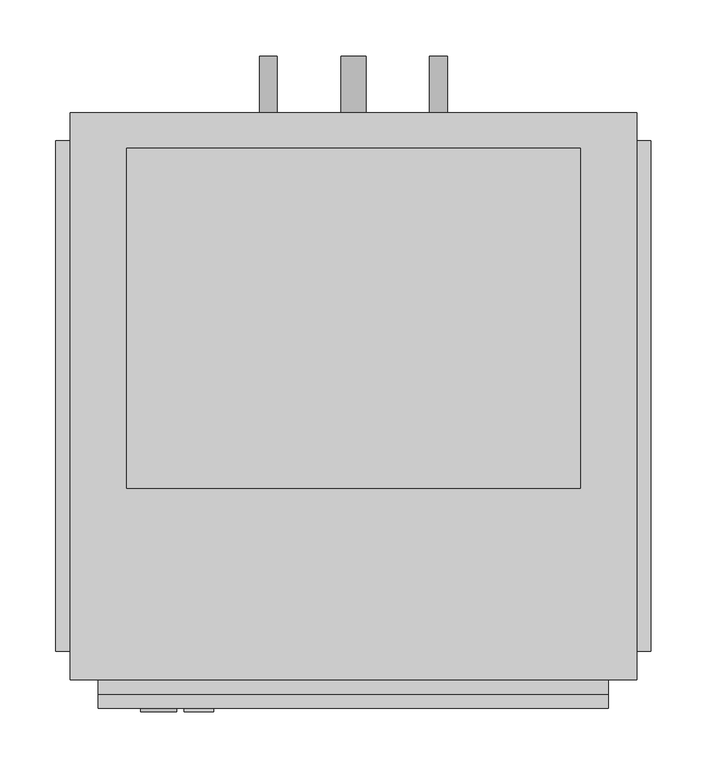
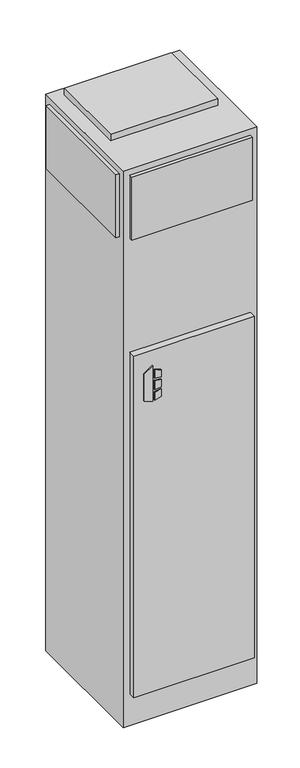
"""IFC4 building model written with IfcOpenShell, lengths in millimetres: proxy geometry, Concealed_Modular_Fan_Coil_Unit_-_MPY_-_IEC_-_2-Pipe_Cool-EHeat_-_NoRisers_2022 : Size 06 - 277v/60Hz/1Ph - 4 Row 6.0kW."""

from ifc_helpers import new_model, si_unit, point, frame, frame_2d, origin, origin_with_axes, place, context, project, spatial, polyline, circle_curve, trimmed, segment, composite_curve, outline, extrude, source, transform, mapped, element, save


def mechanical_equipment_d8c96383(model_context):
    return source(origin(), model_context, "Body", "SweptSolid", [
        extrude(outline(polyline([(1305.3480703, 215.9), (1295.4, 248.0733866), (1437.5709244, 248.0733866), (1414.5489183, 215.9), (1305.3480703, 215.9)])), frame((0.0, -292.1, 0.0), z_axis=(0.0, 1.0, 0.0), x_axis=(0.0, 0.0, 1.0)), (0.0, 0.0, 1.0), 3.175),
        extrude(outline(polyline([(1384.3473557, 254.8317195), (1381.1449632, 280.9131138), (1410.3738042, 280.9131138), (1418.4382193, 254.8317195), (1384.3473557, 254.8317195)])), frame((0.0, -292.1, 0.0), z_axis=(0.0, 1.0, 0.0), x_axis=(0.0, 0.0, 1.0)), (0.0, 0.0, 1.0), 3.175),
        extrude(outline(polyline([(1332.4838288, 280.9131138), (1328.8183279, 254.8317195), (1295.4, 254.8317195), (1304.0342372, 280.9131138), (1332.4838288, 280.9131138)])), frame((0.0, -292.1, 0.0), z_axis=(0.0, 1.0, 0.0), x_axis=(0.0, 0.0, 1.0)), (0.0, 0.0, 1.0), 3.175),
        extrude(outline(polyline([(1371.7989903, 280.9131138), (1374.0808166, 254.8317195), (1338.1432681, 254.8317195), (1340.8845331, 280.9131138), (1371.7989903, 280.9131138)])), frame((0.0, -292.1, 0.0), z_axis=(0.0, 1.0, 0.0), x_axis=(0.0, 0.0, 1.0)), (0.0, 0.0, 1.0), 3.175),
        extrude(outline(composite_curve([segment(trimmed(circle_curve(frame_2d((990.6, 482.6)), 7.9375), [point((990.6, 474.6625))], [point((990.6, 490.5375))], False, "CARTESIAN"), True, "CONTINUOUS"), segment(trimmed(circle_curve(frame_2d((990.6, 482.6)), 7.9375), [point((990.6, 490.5375))], [point((990.6, 474.6625))], False, "CARTESIAN"), True, "CONTINUOUS")], self_intersect=False)), frame((0.0, 244.475, 0.0), z_axis=(0.0, 1.0, 0.0), x_axis=(0.0, 0.0, 1.0)), (0.0, 0.0, 1.0), 50.8),
        extrude(outline(composite_curve([segment(trimmed(circle_curve(frame_2d((990.6, 330.2)), 7.9375), [point((990.6, 322.2625))], [point((990.6, 338.1375))], False, "CARTESIAN"), True, "CONTINUOUS"), segment(trimmed(circle_curve(frame_2d((990.6, 330.2)), 7.9375), [point((990.6, 338.1375))], [point((990.6, 322.2625))], False, "CARTESIAN"), True, "CONTINUOUS")], self_intersect=False)), frame((0.0, 244.475, 0.0), z_axis=(0.0, 1.0, 0.0), x_axis=(0.0, 0.0, 1.0)), (0.0, 0.0, 1.0), 50.8),
        extrude(outline(composite_curve([segment(trimmed(circle_curve(frame_2d((76.2, 406.4)), 11.1125), [point((76.2, 395.2875))], [point((76.2, 417.5125))], False, "CARTESIAN"), True, "CONTINUOUS"), segment(trimmed(circle_curve(frame_2d((76.2, 406.4)), 11.1125), [point((76.2, 417.5125))], [point((76.2, 395.2875))], False, "CARTESIAN"), True, "CONTINUOUS")], self_intersect=False)), frame((0.0, 244.475, 0.0), z_axis=(0.0, 1.0, 0.0), x_axis=(0.0, 0.0, 1.0)), (0.0, 0.0, 1.0), 50.8),
        extrude(outline(polyline([(609.6, 212.725), (609.6, -92.075), (203.2, -92.075), (203.2, 212.725), (609.6, 212.725)])), frame((0.0, 0.0, 2235.2), z_axis=(0.0, 0.0, 1.0), x_axis=(1.0, 0.0, 0.0)), (0.0, 0.0, 1.0), 25.4),
        extrude(outline(polyline([(139.7, -238.125), (139.7, 219.075), (152.4, 219.075), (152.4, -238.125), (139.7, -238.125)])), frame((0.0, 0.0, 1955.8), z_axis=(0.0, 0.0, 1.0), x_axis=(1.0, 0.0, 0.0)), (0.0, 0.0, 1.0), 254.0),
        extrude(outline(polyline([(673.1, 219.075), (673.1, -238.125), (660.4, -238.125), (660.4, 219.075), (673.1, 219.075)])), frame((0.0, 0.0, 1955.8), z_axis=(0.0, 0.0, 1.0), x_axis=(1.0, 0.0, 0.0)), (0.0, 0.0, 1.0), 254.0),
        extrude(outline(polyline([(635.0, -276.225), (177.8, -276.225), (177.8, -263.525), (635.0, -263.525), (635.0, -276.225)])), frame((0.0, 0.0, 1955.8), z_axis=(0.0, 0.0, 1.0), x_axis=(1.0, 0.0, 0.0)), (0.0, 0.0, 1.0), 254.0),
        extrude(outline(polyline([(635.0, -288.925), (177.8, -288.925), (177.8, -263.525), (635.0, -263.525), (635.0, -288.925)])), frame((0.0, 0.0, 127.0), z_axis=(0.0, 0.0, 1.0), x_axis=(1.0, 0.0, 0.0)), (0.0, 0.0, 1.0), 1371.6),
        extrude(outline(polyline([(660.4, 244.475), (660.4, -263.525), (152.4, -263.525), (152.4, 244.475), (660.4, 244.475)])), origin_with_axes(), (0.0, 0.0, 1.0), 2235.2),
    ])


if __name__ == "__main__":
    model = new_model("IFC4")
    model_context = context("Model", 3, world=origin())
    ifc_project = project(units=[si_unit("LENGTHUNIT", "METRE", prefix="MILLI")], contexts=[model_context])
    site = spatial("IfcSite", under=ifc_project)
    building = spatial("IfcBuilding", under=site)
    placement = place(None, origin())
    mechanical_equipment_shape = mechanical_equipment_d8c96383(model_context)
    element("IfcBuildingElementProxy", 1, Name="Concealed_Modular_Fan_Coil_Unit_-_MPY_-_IEC_-_2-Pipe_Cool-EHeat_-_NoRisers_2022 : Size 06 - 277v/60Hz/1Ph - 4 Row 6.0kW", ObjectType="Concealed_Modular_Fan_Coil_Unit_-_MPY_-_IEC_-_2-Pipe_Cool-EHeat_-_NoRisers_2022 : Size 06 - 277v/60Hz/1Ph - 4 Row 6.0kW", at=placement, inside=building, context=model_context, shape_type="MappedRepresentation", body=[
        mapped(mechanical_equipment_shape, transform((0.0, 0.0, 0.0), x_axis=(1.0, 0.0, 0.0), y_axis=(0.0, 1.0, 0.0), z_axis=(0.0, 0.0, 1.0))),
    ])
    save(model, "model.ifc")
